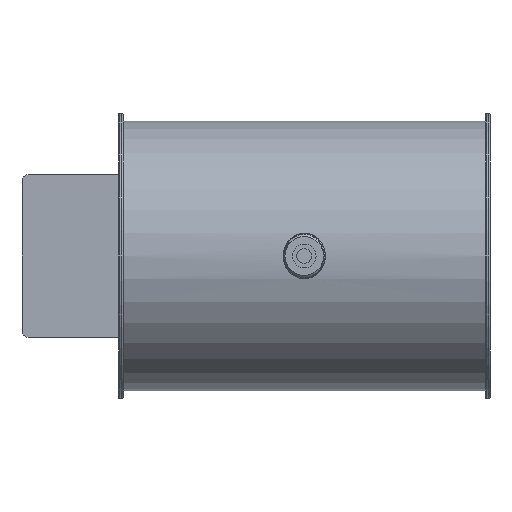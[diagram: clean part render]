
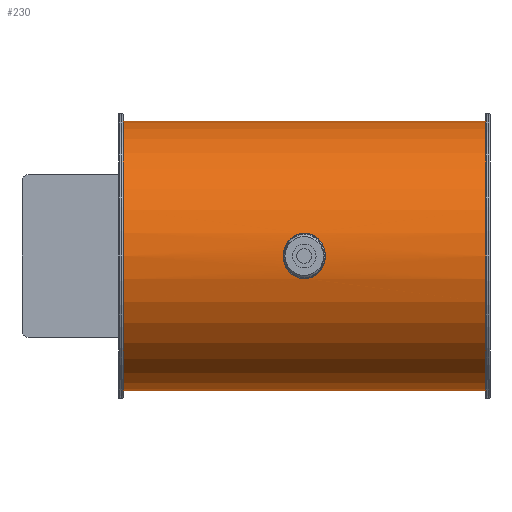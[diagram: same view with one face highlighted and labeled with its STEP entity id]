
A CAD part, front view. The second image highlights one B-rep face of the part: STEP entity #230.
In plain terms, the highlighted cylindrical face has radius 90.8 mm (diameter 181.6 mm), a full revolution.
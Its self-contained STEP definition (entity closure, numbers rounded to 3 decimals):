
#113=B_SPLINE_CURVE_WITH_KNOTS('',3,(#1996,#1997,#1998,#1999,#2000,#2001,
#2002,#2003,#2004,#2005,#2006,#2007,#2008,#2009,#2010,#2011,#2012,#2013,
#2014,#2015,#2016,#2017),.UNSPECIFIED.,.T.,.F.,(2,2,2,2,2,2,2,2,2,2,2,2,
2),(-0.063,0.,0.125,0.25,0.375,0.437,
0.5,0.625,0.75,0.875,
0.938,1.,1.125),.UNSPECIFIED.);
#114=B_SPLINE_CURVE_WITH_KNOTS('',3,(#2019,#2020,#2021,#2022,#2023,#2024,
#2025,#2026,#2027,#2028,#2029,#2030,#2031,#2032,#2033,#2034,#2035,#2036,
#2037,#2038,#2039,#2040),.UNSPECIFIED.,.T.,.F.,(2,2,2,2,2,2,2,2,2,2,2,2,
2),(-0.125,0.,0.062,0.125,0.25,0.375,
0.5,0.562,0.625,0.75,
0.875,1.,1.063),.UNSPECIFIED.);
#148=CYLINDRICAL_SURFACE('',#1369,90.8);
#230=ADVANCED_FACE('',(#443,#444,#445,#446),#148,.T.);
#443=FACE_BOUND('',#601,.T.);
#444=FACE_BOUND('',#602,.T.);
#445=FACE_BOUND('',#603,.T.);
#446=FACE_BOUND('',#604,.T.);
#601=EDGE_LOOP('',(#851));
#602=EDGE_LOOP('',(#852));
#603=EDGE_LOOP('',(#853));
#604=EDGE_LOOP('',(#854));
#851=ORIENTED_EDGE('',*,*,#1163,.T.);
#852=ORIENTED_EDGE('',*,*,#1164,.T.);
#853=ORIENTED_EDGE('',*,*,#1165,.T.);
#854=ORIENTED_EDGE('',*,*,#1166,.F.);
#1033=VERTEX_POINT('',#1995);
#1034=VERTEX_POINT('',#2018);
#1035=VERTEX_POINT('',#2041);
#1036=VERTEX_POINT('',#2043);
#1163=EDGE_CURVE('',#1033,#1033,#1257,.T.);
#1164=EDGE_CURVE('',#1034,#1034,#113,.T.);
#1165=EDGE_CURVE('',#1035,#1035,#114,.T.);
#1166=EDGE_CURVE('',#1036,#1036,#1258,.T.);
#1257=CIRCLE('',#1367,90.8);
#1258=CIRCLE('',#1368,90.8);
#1367=AXIS2_PLACEMENT_3D('',#1994,#1628,#1629);
#1368=AXIS2_PLACEMENT_3D('',#2042,#1630,#1631);
#1369=AXIS2_PLACEMENT_3D('',#2044,#1632,#1633);
#1628=DIRECTION('',(1.,0.,0.));
#1629=DIRECTION('',(0.,0.,1.));
#1630=DIRECTION('',(1.,0.,0.));
#1631=DIRECTION('',(0.,0.,1.));
#1632=DIRECTION('',(1.,0.,0.));
#1633=DIRECTION('',(0.,0.,-1.));
#1994=CARTESIAN_POINT('',(-122.,-48.3,125.));
#1995=CARTESIAN_POINT('',(-122.,-48.3,215.8));
#1996=CARTESIAN_POINT('',(-2.298,-137.806,109.715));
#1997=CARTESIAN_POINT('',(-7.848,-138.111,111.573));
#1998=CARTESIAN_POINT('',(-10.853,-138.549,114.427));
#1999=CARTESIAN_POINT('',(-14.215,-139.092,121.339));
#2000=CARTESIAN_POINT('',(-14.602,-139.175,125.457));
#2001=CARTESIAN_POINT('',(-12.646,-138.833,132.889));
#2002=CARTESIAN_POINT('',(-10.282,-138.42,136.281));
#2003=CARTESIAN_POINT('',(-5.389,-137.969,139.326));
#2004=CARTESIAN_POINT('',(-3.54,-137.852,140.003));
#2005=CARTESIAN_POINT('',(0.316,-137.77,140.486));
#2006=CARTESIAN_POINT('',(2.284,-137.806,140.286));
#2007=CARTESIAN_POINT('',(7.813,-138.108,138.445));
#2008=CARTESIAN_POINT('',(10.832,-138.546,135.61));
#2009=CARTESIAN_POINT('',(14.228,-139.094,128.638));
#2010=CARTESIAN_POINT('',(14.605,-139.176,124.548));
#2011=CARTESIAN_POINT('',(12.639,-138.832,117.092));
#2012=CARTESIAN_POINT('',(10.262,-138.417,113.7));
#2013=CARTESIAN_POINT('',(5.375,-137.968,110.669));
#2014=CARTESIAN_POINT('',(3.504,-137.851,109.99));
#2015=CARTESIAN_POINT('',(-0.316,-137.77,109.517));
#2016=CARTESIAN_POINT('',(-2.298,-137.806,109.715));
#2017=CARTESIAN_POINT('',(-7.848,-138.111,111.573));
#2018=CARTESIAN_POINT('',(-4.148,-137.908,110.334));
#2019=CARTESIAN_POINT('',(-7.848,41.511,111.573));
#2020=CARTESIAN_POINT('',(-2.298,41.206,109.715));
#2021=CARTESIAN_POINT('',(-0.332,41.17,109.516));
#2022=CARTESIAN_POINT('',(3.497,41.251,109.988));
#2023=CARTESIAN_POINT('',(5.363,41.367,110.662));
#2024=CARTESIAN_POINT('',(10.275,41.818,113.707));
#2025=CARTESIAN_POINT('',(12.645,42.233,117.093));
#2026=CARTESIAN_POINT('',(14.61,42.577,124.589));
#2027=CARTESIAN_POINT('',(14.213,42.492,128.674));
#2028=CARTESIAN_POINT('',(10.84,41.947,135.59));
#2029=CARTESIAN_POINT('',(7.832,41.51,138.429));
#2030=CARTESIAN_POINT('',(2.322,41.207,140.279));
#2031=CARTESIAN_POINT('',(0.37,41.17,140.486));
#2032=CARTESIAN_POINT('',(-3.508,41.251,140.013));
#2033=CARTESIAN_POINT('',(-5.361,41.367,139.339));
#2034=CARTESIAN_POINT('',(-10.273,41.818,136.295));
#2035=CARTESIAN_POINT('',(-12.642,42.232,132.907));
#2036=CARTESIAN_POINT('',(-14.607,42.576,125.435));
#2037=CARTESIAN_POINT('',(-14.226,42.494,121.358));
#2038=CARTESIAN_POINT('',(-10.835,41.946,114.395));
#2039=CARTESIAN_POINT('',(-7.848,41.511,111.573));
#2040=CARTESIAN_POINT('',(-2.298,41.206,109.715));
#2041=CARTESIAN_POINT('',(-4.148,41.308,110.334));
#2042=CARTESIAN_POINT('',(122.,-48.3,125.));
#2043=CARTESIAN_POINT('',(122.,-48.3,215.8));
#2044=CARTESIAN_POINT('',(-125.,-48.3,125.));
